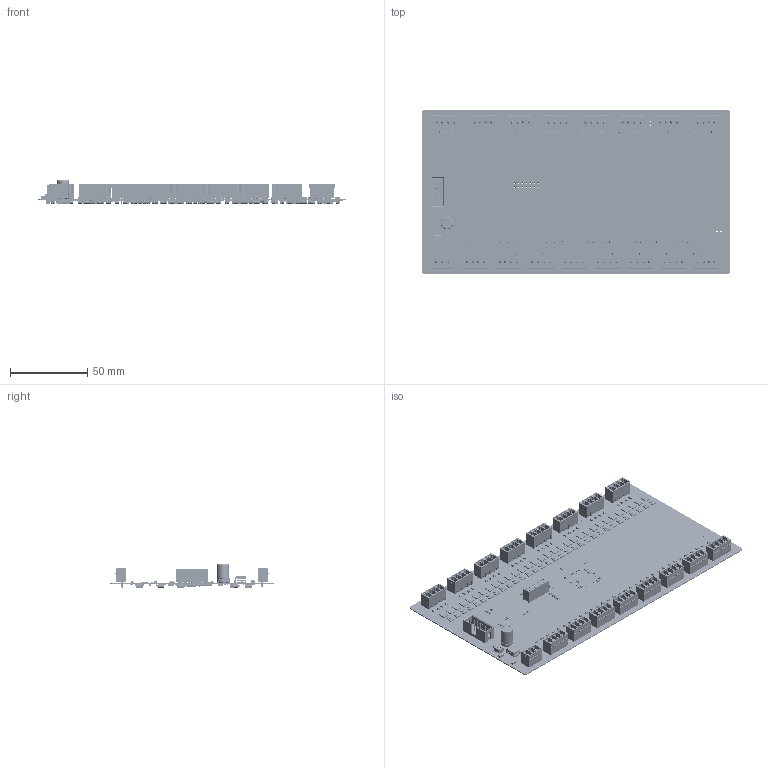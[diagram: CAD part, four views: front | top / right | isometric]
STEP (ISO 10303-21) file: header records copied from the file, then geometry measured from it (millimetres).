
FILE_DESCRIPTION (( 'STEP AP214' ), '1' );
FILE_NAME ('EA3232D -3D.STEP', '2019-05-13T04:42:23', ( 'xt256.com' ), ( 'xt256.com' ), 'SwSTEP 2.0', 'SolidWorks 2016', '' );
FILE_SCHEMA (( 'AUTOMOTIVE_DESIGN' ));
Length unit declared in the file: millimetre
Products named in the file (2236): R102; 657644816-16; 657640080-58; 657632656-12; 657644560-1; R131; 657641872-15; U2; R10; 657640208-124; D62; 657635856-190; 657645328-21; 657639312-72; 657644816-29; C21; 657640208-151; 657640464-4; 657644304-15; 657639824-8; 657635856-21; Q17; 657635856-57; D4; IPC_SOSOP65P640X120-16N_MO-153AB_RU-16; 657640208-191; R194; R73; 657640208-62; 657639696-44; 657635856-128; 657645328-6; 657640080-39; 657634704-9; 2.54-2X7P-F180_6; 657635856-86; C84; U34; 657635856-216; 657645328-26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
Assembly tree (3913 placements, depth 4):
  EA3232D -3D
    X1
      OSC3225
    U83
      657645968
        Extruded
    U82
      IPC_SOSOP65P640X120-16N_MO-153AB_RU-16
    U81
      IPC_SOSOP65P640X120-16N_MO-153AB_RU-16
    U80
      IPC_SOSOIC127P780X200-8N_8_SO_PS
    U79
      IPC_SOSOIC127P680X239-4N_Half_Pitch_MFP_HMHA2801
    U78
      IPC_SOSOIC127P680X239-4N_Half_Pitch_MFP_HMHA2801
    U77
      IPC_SOSOIC127P680X239-4N_Half_Pitch_MFP_HMHA2801
    U76
      IPC_SOSOIC127P680X239-4N_Half_Pitch_MFP_HMHA2801
    U75
      IPC_SOSOIC127P680X239-4N_Half_Pitch_MFP_HMHA2801
    U74
      IPC_SOSOIC127P680X239-4N_Half_Pitch_MFP_HMHA2801
    U73
      IPC_SOSOIC127P680X239-4N_Half_Pitch_MFP_HMHA2801
    U72
      IPC_SOSOIC127P680X239-4N_Half_Pitch_MFP_HMHA2801
    U71
      IPC_SOSOIC127P680X239-4N_Half_Pitch_MFP_HMHA2801
    U70
      IPC_SOSOIC127P680X239-4N_Half_Pitch_MFP_HMHA2801
    U69
      IPC_SOSOIC127P680X239-4N_Half_Pitch_MFP_HMHA2801
    U68
      IPC_SOSOIC127P680X239-4N_Half_Pitch_MFP_HMHA2801
    U67
      IPC_SOSOIC127P680X239-4N_Half_Pitch_MFP_HMHA2801
    U66
      IPC_SOSOIC127P680X239-4N_Half_Pitch_MFP_HMHA2801
    U65
      IPC_SOSOIC127P680X239-4N_Half_Pitch_MFP_HMHA2801
    U64
      IPC_SOSOIC127P680X239-4N_Half_Pitch_MFP_HMHA2801
    U63
      IPC_SOSOIC127P680X239-4N_Half_Pitch_MFP_HMHA2801
    U62
      IPC_SOSOIC127P680X239-4N_Half_Pitch_MFP_HMHA2801
    U61
      IPC_SOSOIC127P680X239-4N_Half_Pitch_MFP_HMHA2801
    U60
      IPC_SOSOIC127P680X239-4N_Half_Pitch_MFP_HMHA2801
    U59
      IPC_SOSOIC127P680X239-4N_Half_Pitch_MFP_HMHA2801
    U58
      IPC_SOSOIC127P680X239-4N_Half_Pitch_MFP_HMHA2801
    U57
      IPC_SOSOIC127P680X239-4N_Half_Pitch_MFP_HMHA2801
    U56
      IPC_SOSOIC127P680X239-4N_Half_Pitch_MFP_HMHA2801
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Bounding box: 200.02 x 107.02 x 15.41 mm (x, y, z)
Volume: 30754.4 mm3; surface area: 91616.8 mm2
Topology: 1774 solids, 1774 shells, 34223 faces, 89159 edges, 59195 vertices
Faces by surface type: plane 24563, cylinder 7284, torus 1155, bspline 1081, sphere 140
Entity records: 222220 total; most frequent: CARTESIAN_POINT 49242, DIRECTION 30702, ORIENTED_EDGE 22466, AXIS2_PLACEMENT_3D 11650, EDGE_CURVE 11233, VECTOR 7402, LINE 7402, VERTEX_POINT 7216
